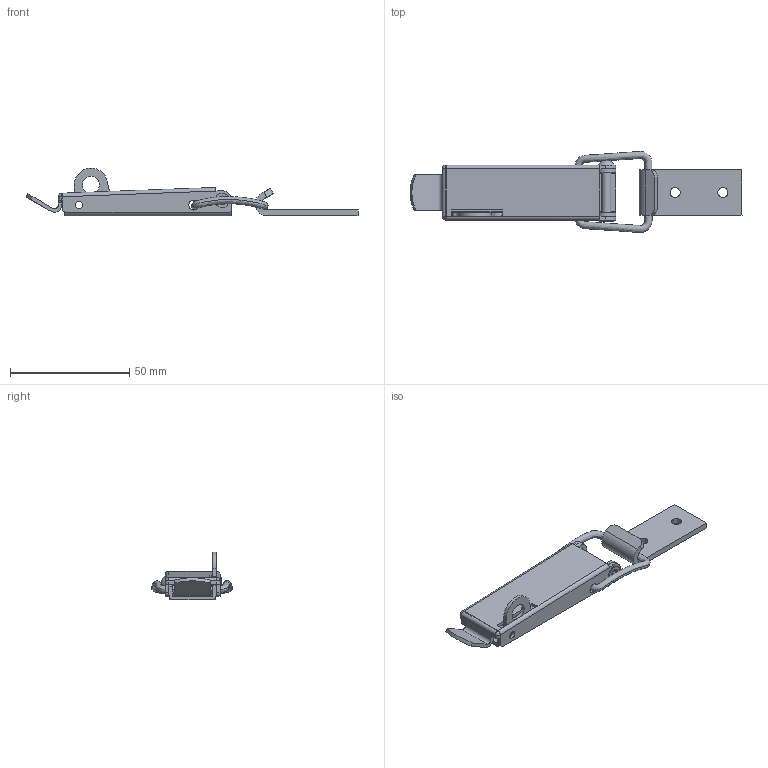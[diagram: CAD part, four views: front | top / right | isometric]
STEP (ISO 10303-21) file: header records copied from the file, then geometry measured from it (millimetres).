
FILE_DESCRIPTION(('Creo Elements/Direct Modeling STEP Export'),'2;1');
FILE_NAME('2.01.01.stp','2018-12-03T16:22:52',(''),(''),'Creo Elements/Direct Modeling STEP processor for AP214 (Solid Model)','Creo Elements/Direct Modeling 20.0B 07-Aug-2017 (C) Parametric Technology GmbH','');
FILE_SCHEMA(('AUTOMOTIVE_DESIGN { 1 0 10303 214 1 1 1 1 }'));
Length unit declared in the file: millimetre
Products named in the file (6): 2.01.01.00-1; 2.01.01.00-2; 2.01.00.00-4; 2.01.00.00-5; 2.05.00.04-11; 2.01.01.00
Assembly tree (5 placements, depth 2):
  2.01.01.00
    2.05.00.04-11
    2.01.00.00-5
    2.01.00.00-4
    2.01.01.00-2
    2.01.01.00-1
Bounding box: 139.02 x 33.97 x 20 mm (x, y, z)
Volume: 10506.2 mm3; surface area: 14248.4 mm2
Topology: 5 solids, 5 shells, 165 faces, 448 edges, 288 vertices
Faces by surface type: cylinder 92, plane 63, sphere 4, cone 2, torus 2, bspline 2
Entity records: 11061 total; most frequent: CARTESIAN_POINT 6865, ORIENTED_EDGE 884, DIRECTION 806, EDGE_CURVE 442, AXIS2_PLACEMENT_3D 290, VERTEX_POINT 288, VECTOR 226, LINE 226
